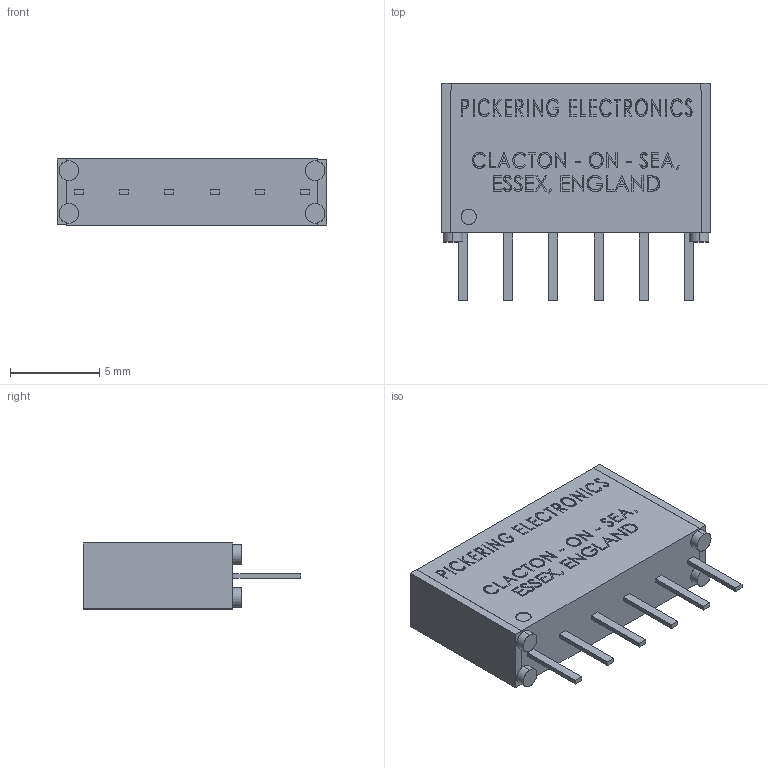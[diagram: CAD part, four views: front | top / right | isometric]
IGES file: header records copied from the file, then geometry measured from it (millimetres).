
Start section: SolidWorks IGES file using analytic representation for surfaces
Global section: file name: T:\Relays in Solidworks\Batch 1\109-2-A-x-xx.IGS; native system: SolidWorks 2009; preprocessor: SolidWorks 2009; author: alex.leming; date: 100629.115424; units: millimetre
Bounding box: 15.1 x 12.2 x 3.7 mm (x, y, z)
Surface area: 611.4 mm2 (no closed solid volume)
Topology: 0 solids, 0 shells, 1021 faces, 8772 edges, 8772 vertices
Faces by surface type: bspline 1011, revolution 10
